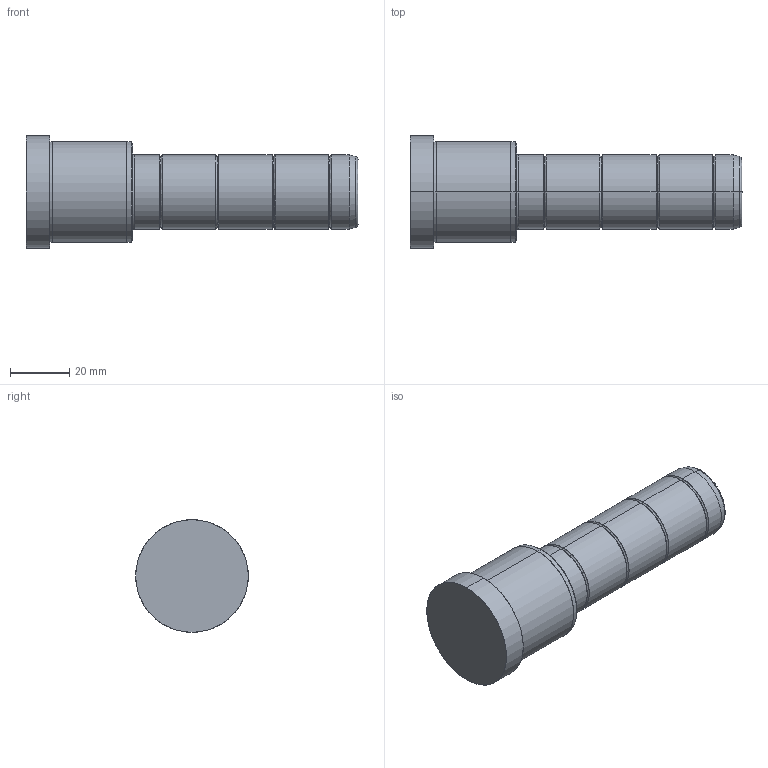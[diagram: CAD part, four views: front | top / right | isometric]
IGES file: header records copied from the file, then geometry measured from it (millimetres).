
Start section: SolidWorks IGES file using analytic representation for surfaces
Global section: file name: C:\Documents and Settings\kalite-mail\Desktop\IGS\D02\25\D02 - 25x36x76.IGS; native system: SolidWorks 2008; preprocessor: SolidWorks 2008; author: kalite-mail; date: 080616.172537; units: millimetre
Bounding box: 112 x 38 x 38 mm (x, y, z)
Surface area: 12227.7 mm2 (no closed solid volume)
Topology: 0 solids, 0 shells, 48 faces, 744 edges, 744 vertices
Faces by surface type: bspline 26, revolution 22
